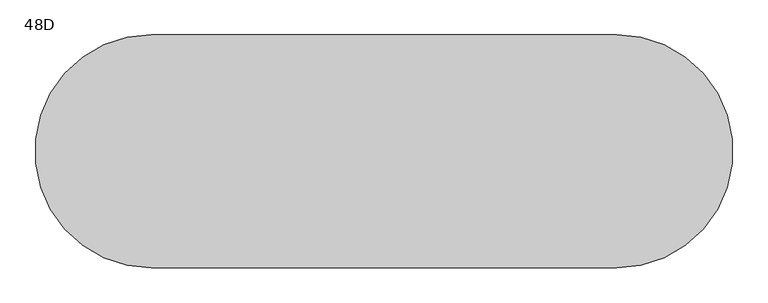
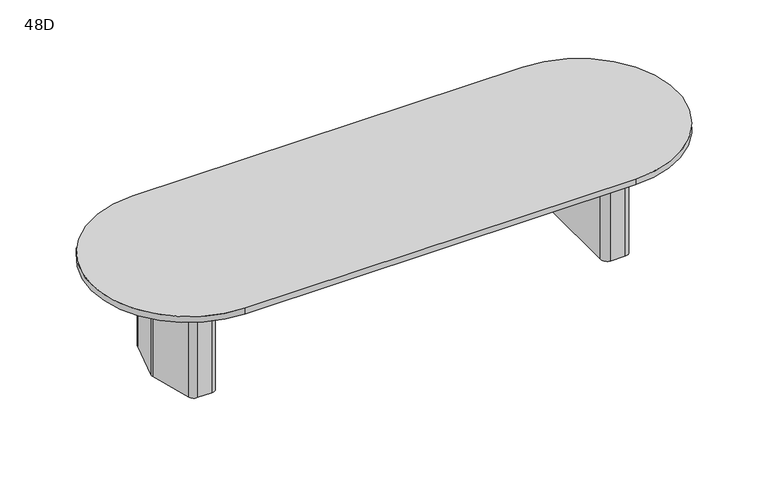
"""IFC4 building model written with IfcOpenShell, lengths in millimetres: furniture geometry, Coalesse_AM_Table_Conference_ETable2_Racetrack_12ft_TwoBase : 48D."""

import ifcopenshell
import ifcopenshell.guid

model = None  # the IFC model being written
_history = None  # IfcOwnerHistory: only IFC2X3 demands one
_inside = {}  # id of a spatial element -> (the spatial element, [elements in it])
_under = {}  # id of a project, library or spatial element -> (it, [spatial elements below it])
_declared = {}  # id of a project -> (the project, [libraries it declares])
_typed = {}  # id of a type object -> (the type object, [elements of that type])
_made_of = {}  # id of a material, layer set ... -> (it, [elements and type objects made of it])


def new_model(schema):
    """Start an empty IFC model of exactly this schema.

    Asked for "IFC4X3", IfcOpenShell would pick the latest addendum, in which some entities
    have other attributes; the version numbers below select the first issue.
    IFC2X3 requires an IfcOwnerHistory on every rooted entity: one is made here for all.
    """
    global model, _history
    if schema == "IFC4X3":
        model = ifcopenshell.file(schema_version=(4, 3, 0, 0))
    else:
        model = ifcopenshell.file(schema=schema)
    _inside.clear()
    _under.clear()
    _declared.clear()
    _typed.clear()
    _made_of.clear()
    _history = None
    if model.schema == "IFC2X3":
        org = make("IfcOrganization", Name="unknown")
        user = make(
            "IfcPersonAndOrganization",
            ThePerson=make("IfcPerson", FamilyName="unknown"),
            TheOrganization=org,
        )
        app = make(
            "IfcApplication",
            ApplicationDeveloper=org,
            Version="unknown",
            ApplicationFullName="unknown",
            ApplicationIdentifier="unknown",
        )
        _history = make(
            "IfcOwnerHistory",
            OwningUser=user,
            OwningApplication=app,
            ChangeAction="ADDED",
            CreationDate=0,
        )
    return model


def make(cls, **values):
    """One entity of the class cls with the attributes given. An attribute that is None is left unset."""
    return model.create_entity(
        cls, **{name: value for name, value in values.items() if value is not None}
    )


def rooted(cls, **values):
    """An entity with a GlobalId (a new one), such as an element, a storey or a relation."""
    return make(cls, GlobalId=ifcopenshell.guid.new(), OwnerHistory=_history, **values)


def si_unit(unit_type, name, prefix=None):
    """IfcSIUnit, for example si_unit("LENGTHUNIT", "METRE", prefix="MILLI")."""
    return make("IfcSIUnit", UnitType=unit_type, Prefix=prefix, Name=name)


def assignment(units):
    """IfcUnitAssignment: the units of a project."""
    return None if units is None else make("IfcUnitAssignment", Units=units)


def point(xyz):
    """IfcCartesianPoint."""
    return None if xyz is None else make("IfcCartesianPoint", Coordinates=xyz)


def direction(xyz):
    """IfcDirection."""
    return None if xyz is None else make("IfcDirection", DirectionRatios=xyz)


def frame(location, z_axis=None, x_axis=None):
    """IfcAxis2Placement3D, a coordinate frame: its origin and axes. An axis left out is left unset."""
    return make(
        "IfcAxis2Placement3D",
        Location=point(location),
        Axis=direction(z_axis),
        RefDirection=direction(x_axis),
    )


def frame_2d(location, x_axis=None):
    """IfcAxis2Placement2D, a coordinate frame in the plane: its origin and x axis."""
    return make(
        "IfcAxis2Placement2D", Location=point(location), RefDirection=direction(x_axis)
    )


def origin():
    """The frame at (0, 0, 0) with its axes left unset."""
    return frame((0.0, 0.0, 0.0))


def place(relative_to, where):
    """IfcLocalPlacement: puts the frame where relative to a parent placement (None: the world)."""
    return make(
        "IfcLocalPlacement", PlacementRelTo=relative_to, RelativePlacement=where
    )


def context(
    kind, dimensions, precision=None, world=None, true_north=None, identifier=None
):
    """IfcGeometricRepresentationContext, for example the 3D "Model" context."""
    return make(
        "IfcGeometricRepresentationContext",
        ContextIdentifier=identifier,
        ContextType=kind,
        CoordinateSpaceDimension=dimensions,
        Precision=precision,
        WorldCoordinateSystem=world,
        TrueNorth=true_north,
    )


def project(units=None, contexts=None):
    """IfcProject with its units and contexts."""
    return rooted(
        "IfcProject",
        Name="project",
        RepresentationContexts=contexts,
        UnitsInContext=assignment(units),
    )


def spatial(cls, under=None, at=None, **own):
    """A site, building, storey or space (cls), placed at a placement, below another one or the project."""
    s = rooted(cls, ObjectPlacement=at, **own)
    if under is not None:
        _under.setdefault(under.id(), (under, []))[1].append(s)
    return s


def polyline(points):
    """IfcPolyline through the points."""
    return make("IfcPolyline", Points=[point(p) for p in points])


def circle_curve(where, radius):
    """IfcCircle in the frame where."""
    return make("IfcCircle", Position=where, Radius=radius)


def trimmed(basis, trim1, trim2, sense, master):
    """IfcTrimmedCurve: the piece of a basis curve between two trims."""
    return make(
        "IfcTrimmedCurve",
        BasisCurve=basis,
        Trim1=trim1,
        Trim2=trim2,
        SenseAgreement=sense,
        MasterRepresentation=master,
    )


def segment(curve, same_sense, transition):
    """IfcCompositeCurveSegment."""
    return make(
        "IfcCompositeCurveSegment",
        Transition=transition,
        SameSense=same_sense,
        ParentCurve=curve,
    )


def composite_curve(segments, self_intersect=None):
    """IfcCompositeCurve: segments joined end to end."""
    return make("IfcCompositeCurve", Segments=segments, SelfIntersect=self_intersect)


def outline(outer, holes=None, kind="AREA"):
    """IfcArbitraryClosedProfileDef: a profile drawn as a closed curve; with holes, ...WithVoids."""
    if holes is None:
        return make("IfcArbitraryClosedProfileDef", ProfileType=kind, OuterCurve=outer)
    return make(
        "IfcArbitraryProfileDefWithVoids",
        ProfileType=kind,
        OuterCurve=outer,
        InnerCurves=holes,
    )


def extrude(swept, where, along, depth):
    """IfcExtrudedAreaSolid: the profile swept, set in the frame where, extruded along a direction by depth."""
    return make(
        "IfcExtrudedAreaSolid",
        SweptArea=swept,
        Position=where,
        ExtrudedDirection=direction(along),
        Depth=depth,
    )


def shape(context_of_items, identifier, shape_type, items):
    """IfcShapeRepresentation: the items that make up one representation, for example the "Body"."""
    return make(
        "IfcShapeRepresentation",
        ContextOfItems=context_of_items,
        RepresentationIdentifier=identifier,
        RepresentationType=shape_type,
        Items=items,
    )


def source(mapping_origin, context_of_items, identifier, shape_type, items):
    """IfcRepresentationMap: a shape defined once, which mapped items show again and again."""
    return make(
        "IfcRepresentationMap",
        MappingOrigin=mapping_origin,
        MappedRepresentation=shape(context_of_items, identifier, shape_type, items),
    )


def transform(
    local_origin,
    x_axis=None,
    y_axis=None,
    z_axis=None,
    scale=None,
    scale2=None,
    scale3=None,
    uniform=True,
):
    """IfcCartesianTransformationOperator3D, or its non-uniform kind. x_axis, y_axis, z_axis: its Axis1, 2, 3."""
    if uniform:
        return make(
            "IfcCartesianTransformationOperator3D",
            Axis1=direction(x_axis),
            Axis2=direction(y_axis),
            LocalOrigin=point(local_origin),
            Scale=scale,
            Axis3=direction(z_axis),
        )
    return make(
        "IfcCartesianTransformationOperator3DnonUniform",
        Axis1=direction(x_axis),
        Axis2=direction(y_axis),
        LocalOrigin=point(local_origin),
        Scale=scale,
        Axis3=direction(z_axis),
        Scale2=scale2,
        Scale3=scale3,
    )


def mapped(mapping_source, mapping_target):
    """IfcMappedItem: shows the shape of a source again, moved by a transform."""
    return make(
        "IfcMappedItem", MappingSource=mapping_source, MappingTarget=mapping_target
    )


def made_of(thing, what):
    """Note that an element or type object is made of a material, layer set ...; save() writes the relation."""
    if what is not None:
        _made_of.setdefault(what.id(), (what, []))[1].append(thing)
    return thing


def element(
    cls,
    number,
    at=None,
    inside=None,
    cuts=None,
    type_object=None,
    material=None,
    context=None,
    identifier="Body",
    shape_type=None,
    held_by="IfcProductDefinitionShape",
    body=None,
    shapes=None,
    **own,
):
    """One element of the class cls, such as IfcWall. Its Tag is "e" and its number.

    at: its placement. inside: the storey or other place that contains it. cuts: it is an
    opening in that element (IfcRelVoidsElement). A single representation is given by context,
    identifier, shape_type and body (its items); several are given by shapes. held_by: the class
    of the entity that holds the representations. save() writes the other relations.
    """
    e = rooted(cls, Tag="e%d" % number, ObjectPlacement=at, **own)
    if body is not None:
        shapes = [shape(context, identifier, shape_type, body)]
    if shapes is not None:
        e.Representation = make(held_by, Representations=shapes)
    if inside is not None:
        _inside.setdefault(inside.id(), (inside, []))[1].append(e)
    if cuts is not None:
        rooted(
            "IfcRelVoidsElement", RelatingBuildingElement=cuts, RelatedOpeningElement=e
        )
    if type_object is not None:
        _typed.setdefault(type_object.id(), (type_object, []))[1].append(e)
    return made_of(e, material)


def aggregate(whole, parts):
    """IfcRelAggregates: a whole, such as a stair, and the parts it consists of."""
    return rooted("IfcRelAggregates", RelatingObject=whole, RelatedObjects=parts)


def save(model, path):
    """Write the relations noted so far, then the file.

    IfcRelAggregates (storeys below a building ...), IfcRelContainedInSpatialStructure (elements
    in a storey), IfcRelDefinesByType, IfcRelAssociatesMaterial and IfcRelDeclares: one each for
    every whole, place, type object, material and project.
    """
    for whole, parts in _under.values():
        aggregate(whole, parts)
    for where, things in _inside.values():
        rooted(
            "IfcRelContainedInSpatialStructure",
            RelatedElements=things,
            RelatingStructure=where,
        )
    for kind, things in _typed.values():
        rooted("IfcRelDefinesByType", RelatedObjects=things, RelatingType=kind)
    for what, things in _made_of.values():
        rooted("IfcRelAssociatesMaterial", RelatedObjects=things, RelatingMaterial=what)
    for by, libraries in _declared.values():
        rooted("IfcRelDeclares", RelatingContext=by, RelatedDefinitions=libraries)
    model.write(path)


def plane_surface(at):
    """IfcPlane: the flat surface through the origin of the frame at, square to its z axis."""
    return make("IfcPlane", Position=at)


def cylinder_surface(at, radius):
    """IfcCylindricalSurface: all points at the distance radius from the z axis of the frame at."""
    return make("IfcCylindricalSurface", Position=at, Radius=radius)


def revolved_surface(curve, axis_point, axis_direction):
    """IfcSurfaceOfRevolution: the curve turned about the line through axis_point along axis_direction."""
    return make(
        "IfcSurfaceOfRevolution",
        SweptCurve=make("IfcArbitraryOpenProfileDef", ProfileType="CURVE", Curve=curve),
        AxisPosition=make("IfcAxis1Placement", Location=point(axis_point), Axis=direction(axis_direction)),
    )


def advanced_brep(points, edges, surfaces, faces):
    """IfcAdvancedBrep: a solid bounded by faces that lie on surfaces and meet in shared edges.

    An edge is (start, end): straight between two places in points (the first is 0);
    or (start, end, curve); or (start, end, curve, False) where it runs against its curve.
    A face is (place in surfaces, loops), or (place, loops, False) where it looks against
    its surface's normal. A loop lists edges by number (the first is 1), with a minus sign
    where the edge is run from its end to its start. The first loop is the outer one.
    """
    corners = [point(p) for p in points]
    vertices = [make("IfcVertexPoint", VertexGeometry=c) for c in corners]
    made = []
    for start, end, *more in edges:
        made.append(
            make(
                "IfcEdgeCurve",
                EdgeStart=vertices[start],
                EdgeEnd=vertices[end],
                EdgeGeometry=more[0] if more else make("IfcPolyline", Points=[corners[start], corners[end]]),
                SameSense=more[1] if len(more) > 1 else True,
            )
        )
    hull = []
    for where, loops, *sense in faces:
        bounds = []
        for j, loop in enumerate(loops):
            ring = [make("IfcOrientedEdge", EdgeElement=made[abs(k) - 1], Orientation=k > 0) for k in loop]
            bounds.append(
                make(
                    "IfcFaceOuterBound" if j == 0 else "IfcFaceBound",
                    Bound=make("IfcEdgeLoop", EdgeList=ring),
                    Orientation=True,
                )
            )
        hull.append(make("IfcAdvancedFace", Bounds=bounds, FaceSurface=surfaces[where], SameSense=sense[0] if sense else True))
    return make("IfcAdvancedBrep", Outer=make("IfcClosedShell", CfsFaces=hull))


def furniture_48d_4f236a16(model_context):
    return source(origin(), model_context, "Body", "SolidModel", [
        advanced_brep(
        [(1370.224548, 274.2093613, 698.5), (1330.3579246, 304.8, 698.5), (1241.425, 304.8, 698.5), (1200.15, 263.525, 698.5), (1200.15, -263.525, 698.5), (1241.425, -304.8, 698.5), (1330.3579246, -304.8, 698.5), (1370.224548, -274.2093613, 698.5), (1440.8503901, -10.6333708, 698.5), (1440.8503901, 10.6333708, 698.5), (1238.25, -206.375, 698.5), (1238.25, 206.375, 698.5), (1263.65, 231.775, 698.5), (1322.6608422, 231.775, 698.5), (1347.195338, 212.9490792, 698.5), (1385.8875, 68.54974, 698.5), (1385.8875, -68.54974, 698.5), (1347.195338, -212.9490792, 698.5), (1322.6608422, -231.775, 698.5), (1263.65, -231.775, 698.5), (1370.224548, 274.2093613, 3.175), (1440.8503901, 10.6333708, 3.175), (1440.8503901, -10.6333708, 3.175), (1370.224548, -274.2093613, 3.175), (1330.3579246, -304.8, 3.175), (1241.425, -304.8, 3.175), (1200.15, -263.525, 3.175), (1200.15, 263.525, 3.175), (1241.425, 304.8, 3.175), (1330.3579246, 304.8, 3.175), (1359.4625859, 216.2361187, 3.175), (1322.6608422, 244.475, 3.175), (1263.65, 244.475, 3.175), (1225.55, 206.375, 3.175), (1225.55, -206.375, 3.175), (1263.65, -244.475, 3.175), (1322.6608422, -244.475, 3.175), (1359.4625859, -216.2361187, 3.175), (1398.5875, -70.2217466, 3.175), (1398.5875, 70.2217466, 3.175), (1263.65, -231.775, 3.175), (1238.25, -206.375, 3.175), (1322.6608422, -231.775, 3.175), (1347.195338, -212.9490792, 3.175), (1385.8875, -68.54974, 3.175), (1385.8875, 68.54974, 3.175), (1347.195338, 212.9490792, 3.175), (1322.6608422, 231.775, 3.175), (1263.65, 231.775, 3.175), (1238.25, 206.375, 3.175), (1359.4625859, 216.2361187, 0.0), (1398.5875, 70.2217466, 0.0), (1398.5875, -70.2217466, 0.0), (1359.4625859, -216.2361187, 0.0), (1322.6608422, -244.475, 0.0), (1263.65, -244.475, 0.0), (1225.55, -206.375, 0.0), (1225.55, 206.375, 0.0), (1263.65, 244.475, 0.0), (1322.6608422, 244.475, 0.0)],
        [
            (0, 1, circle_curve(frame((1330.3579246, 263.5270004, 698.5), z_axis=(0.0, 0.0, 1.0), x_axis=(-1.0, 0.0, 0.0)), 41.2729996)),
            (1, 2),
            (2, 3, circle_curve(frame((1241.425, 263.525, 698.5), z_axis=(0.0, 0.0, 1.0), x_axis=(-1.0, 0.0, 0.0)), 41.275)),
            (3, 4),
            (4, 5, circle_curve(frame((1241.425, -263.525, 698.5), z_axis=(0.0, 0.0, 1.0), x_axis=(-1.0, 0.0, 0.0)), 41.275)),
            (5, 6),
            (6, 7, circle_curve(frame((1330.3579246, -263.5270004, 698.5), z_axis=(0.0, 0.0, 1.0), x_axis=(-1.0, 0.0, 0.0)), 41.2729996)),
            (7, 8),
            (8, 9, circle_curve(frame((1401.1665979, 0.0, 698.5), z_axis=(0.0, 0.0, 1.0), x_axis=(-1.0, 0.0, 0.0)), 41.0837187)),
            (9, 0),
            (10, 11),
            (11, 12, circle_curve(frame((1263.65, 206.375, 698.5), z_axis=(0.0, 0.0, -1.0), x_axis=(-1.0, 0.0, 0.0)), 25.4)),
            (12, 13),
            (13, 14, circle_curve(frame((1322.6608422, 206.375, 698.5), z_axis=(0.0, 0.0, -1.0), x_axis=(-1.0, 0.0, 0.0)), 25.4)),
            (14, 15),
            (15, 16),
            (16, 17),
            (17, 18, circle_curve(frame((1322.6608422, -206.375, 698.5), z_axis=(0.0, 0.0, -1.0), x_axis=(-1.0, 0.0, 0.0)), 25.4)),
            (18, 19),
            (19, 10, circle_curve(frame((1263.65, -206.375, 698.5), z_axis=(0.0, 0.0, -1.0), x_axis=(-1.0, 0.0, 0.0)), 25.4)),
            (20, 21),
            (21, 22, circle_curve(frame((1401.1665979, 0.0, 3.175), z_axis=(0.0, 0.0, -1.0), x_axis=(-1.0, 0.0, 0.0)), 41.0837187)),
            (22, 23),
            (23, 24, circle_curve(frame((1330.3579246, -263.5270004, 3.175), z_axis=(0.0, 0.0, -1.0), x_axis=(-1.0, 0.0, 0.0)), 41.2729996)),
            (24, 25),
            (25, 26, circle_curve(frame((1241.425, -263.525, 3.175), z_axis=(0.0, 0.0, -1.0), x_axis=(-1.0, 0.0, 0.0)), 41.275)),
            (26, 27),
            (27, 28, circle_curve(frame((1241.425, 263.525, 3.175), z_axis=(0.0, 0.0, -1.0), x_axis=(-1.0, 0.0, 0.0)), 41.275)),
            (28, 29),
            (29, 20, circle_curve(frame((1330.3579246, 263.5270004, 3.175), z_axis=(0.0, 0.0, -1.0), x_axis=(-1.0, 0.0, 0.0)), 41.2729996)),
            (30, 31, circle_curve(frame((1322.6608422, 206.375, 3.175), z_axis=(0.0, 0.0, 1.0), x_axis=(-1.0, 0.0, 0.0)), 38.1)),
            (31, 32),
            (32, 33, circle_curve(frame((1263.65, 206.375, 3.175), z_axis=(0.0, 0.0, 1.0), x_axis=(-1.0, 0.0, 0.0)), 38.1)),
            (33, 34),
            (34, 35, circle_curve(frame((1263.65, -206.375, 3.175), z_axis=(0.0, 0.0, 1.0), x_axis=(-1.0, 0.0, 0.0)), 38.1)),
            (35, 36),
            (36, 37, circle_curve(frame((1322.6608422, -206.375, 3.175), z_axis=(0.0, 0.0, 1.0), x_axis=(-1.0, 0.0, 0.0)), 38.1)),
            (37, 38),
            (38, 39),
            (39, 30),
            (9, 21),
            (20, 0),
            (8, 22),
            (7, 23),
            (6, 24),
            (5, 25),
            (4, 26),
            (3, 27),
            (2, 28),
            (1, 29),
            (19, 40),
            (40, 41, circle_curve(frame((1263.65, -206.375, 3.175), z_axis=(0.0, 0.0, -1.0), x_axis=(-1.0, 0.0, 0.0)), 25.4)),
            (41, 10),
            (18, 42),
            (42, 40),
            (17, 43),
            (43, 42, circle_curve(frame((1322.6608422, -206.375, 3.175), z_axis=(0.0, 0.0, -1.0), x_axis=(-1.0, 0.0, 0.0)), 25.4)),
            (16, 44),
            (44, 43),
            (15, 45),
            (45, 44),
            (14, 46),
            (46, 45),
            (13, 47),
            (47, 46, circle_curve(frame((1322.6608422, 206.375, 3.175), z_axis=(0.0, 0.0, -1.0), x_axis=(-1.0, 0.0, 0.0)), 25.4)),
            (12, 48),
            (48, 47),
            (11, 49),
            (49, 48, circle_curve(frame((1263.65, 206.375, 3.175), z_axis=(0.0, 0.0, -1.0), x_axis=(-1.0, 0.0, 0.0)), 25.4)),
            (41, 49),
            (50, 51),
            (51, 52),
            (52, 53),
            (53, 54, circle_curve(frame((1322.6608422, -206.375, 0.0), z_axis=(0.0, 0.0, -1.0), x_axis=(-1.0, 0.0, 0.0)), 38.1)),
            (54, 55),
            (55, 56, circle_curve(frame((1263.65, -206.375, 0.0), z_axis=(0.0, 0.0, -1.0), x_axis=(-1.0, 0.0, 0.0)), 38.1)),
            (56, 57),
            (57, 58, circle_curve(frame((1263.65, 206.375, 0.0), z_axis=(0.0, 0.0, -1.0), x_axis=(-1.0, 0.0, 0.0)), 38.1)),
            (58, 59),
            (59, 50, circle_curve(frame((1322.6608422, 206.375, 0.0), z_axis=(0.0, 0.0, -1.0), x_axis=(-1.0, 0.0, 0.0)), 38.1)),
            (50, 30),
            (39, 51),
            (38, 52),
            (37, 53),
            (36, 54),
            (35, 55),
            (34, 56),
            (33, 57),
            (32, 58),
            (31, 59),
        ],
        [
            plane_surface(frame((1440.8374275, 10.6817473, 698.5), z_axis=(0.0, 0.0, 1.0000000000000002), x_axis=(0.25882201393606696, -0.9659250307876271, 0.0))),
            plane_surface(frame((1440.8374275, 10.6817473, 3.175), z_axis=(0.0, 0.0, -1.0000000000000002), x_axis=(-0.25882201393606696, 0.9659250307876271, 0.0))),
            plane_surface(frame((1370.224548, 274.2093613, 698.5), z_axis=(0.9659250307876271, 0.25882201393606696, 0.0), x_axis=(0.0, 0.0, -1.0))),
            cylinder_surface(frame((1401.1665979, 0.0, 3.175), z_axis=(0.0, 0.0, 1.0), x_axis=(-1.0, 0.0, 0.0)), 41.0837187),
            plane_surface(frame((1440.8503901, -10.6333708, 698.5), z_axis=(0.9659250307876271, -0.2588220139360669, 0.0), x_axis=(0.0, 0.0, -1.0))),
            cylinder_surface(frame((1330.3579246, -263.5270004, 3.175), z_axis=(0.0, 0.0, 1.0), x_axis=(-1.0, 0.0, 0.0)), 41.2729996),
            plane_surface(frame((1330.3579246, -304.8, 698.5), z_axis=(0.0, -1.0, 0.0), x_axis=(0.0, 0.0, -1.0))),
            cylinder_surface(frame((1241.425, -263.525, 3.175), z_axis=(0.0, 0.0, 1.0), x_axis=(-1.0, 0.0, 0.0)), 41.275),
            plane_surface(frame((1200.15, -263.525, 698.5), z_axis=(-1.0, 0.0, 0.0), x_axis=(0.0, 0.0, -1.0))),
            cylinder_surface(frame((1241.425, 263.525, 3.175), z_axis=(0.0, 0.0, 1.0), x_axis=(-1.0, 0.0, 0.0)), 41.275),
            plane_surface(frame((1241.425, 304.8, 698.5), z_axis=(0.0, 1.0, 0.0), x_axis=(0.0, 0.0, -1.0))),
            cylinder_surface(frame((1330.3579246, 263.5270004, 3.175), z_axis=(0.0, 0.0, 1.0), x_axis=(-1.0, 0.0, 0.0)), 41.2729996),
            revolved_surface(polyline([(1238.25, -206.375, 3.175), (1238.25, -206.375, 698.5)]), (1263.65, -206.375, 0.0), (0.0, 0.0, -1.0)),
            plane_surface(frame((1263.65, -231.775, 698.5), z_axis=(0.0, 1.0, 0.0), x_axis=(0.0, 0.0, -1.0))),
            revolved_surface(polyline([(1297.2608421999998, -206.375, 3.175), (1297.2608421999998, -206.375, 698.5)]), (1322.6608422, -206.375, 0.0), (0.0, 0.0, -1.0)),
            plane_surface(frame((1347.195338, -212.9490792, 698.5), z_axis=(-0.9659250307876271, 0.2588220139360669, 0.0), x_axis=(0.0, 0.0, -1.0))),
            plane_surface(frame((1385.8875, -68.54974, 698.5), z_axis=(-1.0, 0.0, 0.0), x_axis=(0.0, 0.0, -1.0))),
            plane_surface(frame((1385.8875, 68.54974, 698.5), z_axis=(-0.9659250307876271, -0.25882201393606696, 0.0), x_axis=(0.0, 0.0, -1.0))),
            revolved_surface(polyline([(1297.2608421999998, 206.375, 3.175), (1297.2608421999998, 206.375, 698.5)]), (1322.6608422, 206.375, 0.0), (0.0, 0.0, -1.0)),
            plane_surface(frame((1322.6608422, 231.775, 698.5), z_axis=(0.0, -1.0, 0.0), x_axis=(0.0, 0.0, -1.0))),
            revolved_surface(polyline([(1238.25, 206.375, 3.175), (1238.25, 206.375, 698.5)]), (1263.65, 206.375, 0.0), (0.0, 0.0, -1.0)),
            plane_surface(frame((1238.25, 206.375, 698.5), z_axis=(1.0, 0.0, 0.0), x_axis=(0.0, 0.0, -1.0))),
            plane_surface(frame((1398.1547479, 71.8367796, 3.175), z_axis=(0.0, 0.0, 1.0), x_axis=(0.25882201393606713, -0.965925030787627, 0.0))),
            plane_surface(frame((1398.1547479, 71.8367796, 0.0), z_axis=(0.0, 0.0, -1.0), x_axis=(-0.25882201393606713, 0.965925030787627, 0.0))),
            plane_surface(frame((1359.4625859, 216.2361187, 3.175), z_axis=(0.965925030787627, 0.25882201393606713, 0.0), x_axis=(0.0, 0.0, -1.0))),
            plane_surface(frame((1398.5875, 70.2217466, 3.175), z_axis=(1.0, 0.0, 0.0), x_axis=(0.0, 0.0, -1.0))),
            plane_surface(frame((1398.5875, -70.2217466, 3.175), z_axis=(0.9659250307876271, -0.2588220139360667, 0.0), x_axis=(0.0, 0.0, -1.0))),
            cylinder_surface(frame((1322.6608422, -206.375, 0.0), z_axis=(0.0, 0.0, 1.0), x_axis=(-1.0, 0.0, 0.0)), 38.1),
            plane_surface(frame((1322.6608422, -244.475, 3.175), z_axis=(0.0, -1.0, 0.0), x_axis=(0.0, 0.0, -1.0))),
            cylinder_surface(frame((1263.65, -206.375, 0.0), z_axis=(0.0, 0.0, 1.0), x_axis=(-1.0, 0.0, 0.0)), 38.1),
            plane_surface(frame((1225.55, -206.375, 3.175), z_axis=(-1.0, 0.0, 0.0), x_axis=(0.0, 0.0, -1.0))),
            cylinder_surface(frame((1263.65, 206.375, 0.0), z_axis=(0.0, 0.0, 1.0), x_axis=(-1.0, 0.0, 0.0)), 38.1),
            plane_surface(frame((1263.65, 244.475, 3.175), z_axis=(0.0, 1.0, 0.0), x_axis=(0.0, 0.0, -1.0))),
            cylinder_surface(frame((1322.6608422, 206.375, 0.0), z_axis=(0.0, 0.0, 1.0), x_axis=(-1.0, 0.0, 0.0)), 38.1),
        ],
        [
            (0, [[1, 2, 3, 4, 5, 6, 7, 8, 9, 10], [11, 12, 13, 14, 15, 16, 17, 18, 19, 20]]),
            (1, [[21, 22, 23, 24, 25, 26, 27, 28, 29, 30], [31, 32, 33, 34, 35, 36, 37, 38, 39, 40]]),
            (2, [[41, -21, 42, -10]]),
            (3, [[43, -22, -41, -9]]),
            (4, [[44, -23, -43, -8]]),
            (5, [[45, -24, -44, -7]]),
            (6, [[46, -25, -45, -6]]),
            (7, [[47, -26, -46, -5]]),
            (8, [[48, -27, -47, -4]]),
            (9, [[49, -28, -48, -3]]),
            (10, [[50, -29, -49, -2]]),
            (11, [[-42, -30, -50, -1]]),
            (12, [[51, 52, 53, -20]]),
            (13, [[54, 55, -51, -19]]),
            (14, [[56, 57, -54, -18]]),
            (15, [[58, 59, -56, -17]]),
            (16, [[60, 61, -58, -16]]),
            (17, [[62, 63, -60, -15]]),
            (18, [[64, 65, -62, -14]]),
            (19, [[66, 67, -64, -13]]),
            (20, [[68, 69, -66, -12]]),
            (21, [[-53, 70, -68, -11]]),
            (22, [[-55, -57, -59, -61, -63, -65, -67, -69, -70, -52]]),
            (23, [[71, 72, 73, 74, 75, 76, 77, 78, 79, 80]]),
            (24, [[81, -40, 82, -71]]),
            (25, [[-82, -39, 83, -72]]),
            (26, [[-83, -38, 84, -73]]),
            (27, [[-84, -37, 85, -74]]),
            (28, [[-85, -36, 86, -75]]),
            (29, [[-86, -35, 87, -76]]),
            (30, [[-87, -34, 88, -77]]),
            (31, [[-88, -33, 89, -78]]),
            (32, [[-89, -32, 90, -79]]),
            (33, [[-90, -31, -81, -80]]),
        ],
    ),
        advanced_brep(
        [(-1381.337048, 274.2093613, 698.5), (-1451.9628901, 10.6333708, 698.5), (-1451.9628901, -10.6333708, 698.5), (-1381.337048, -274.2093613, 698.5), (-1341.4704246, -304.8, 698.5), (-1252.5375, -304.8, 698.5), (-1211.2625, -263.525, 698.5), (-1211.2625, 263.525, 698.5), (-1252.5375, 304.8, 698.5), (-1341.4704246, 304.8, 698.5), (-1249.3625, -206.375, 698.5), (-1274.7625, -231.775, 698.5), (-1333.7733422, -231.775, 698.5), (-1358.307838, -212.9490792, 698.5), (-1397.0, -68.54974, 698.5), (-1397.0, 68.54974, 698.5), (-1358.307838, 212.9490792, 698.5), (-1333.7733422, 231.775, 698.5), (-1274.7625, 231.775, 698.5), (-1249.3625, 206.375, 698.5), (-1381.337048, 274.2093613, 3.175), (-1341.4704246, 304.8, 3.175), (-1252.5375, 304.8, 3.175), (-1211.2625, 263.525, 3.175), (-1211.2625, -263.525, 3.175), (-1252.5375, -304.8, 3.175), (-1341.4704246, -304.8, 3.175), (-1381.337048, -274.2093613, 3.175), (-1451.9628901, -10.6333708, 3.175), (-1451.9628901, 10.6333708, 3.175), (-1370.5750859, 216.2361187, 3.175), (-1409.7, 70.2217466, 3.175), (-1409.7, -70.2217466, 3.175), (-1370.5750859, -216.2361187, 3.175), (-1333.7733422, -244.475, 3.175), (-1274.7625, -244.475, 3.175), (-1236.6625, -206.375, 3.175), (-1236.6625, 206.375, 3.175), (-1274.7625, 244.475, 3.175), (-1333.7733422, 244.475, 3.175), (-1249.3625, -206.375, 3.175), (-1274.7625, -231.775, 3.175), (-1333.7733422, -231.775, 3.175), (-1358.307838, -212.9490792, 3.175), (-1397.0, -68.54974, 3.175), (-1397.0, 68.54974, 3.175), (-1358.307838, 212.9490792, 3.175), (-1333.7733422, 231.775, 3.175), (-1274.7625, 231.775, 3.175), (-1249.3625, 206.375, 3.175), (-1370.5750859, 216.2361187, 0.0), (-1333.7733422, 244.475, 0.0), (-1274.7625, 244.475, 0.0), (-1236.6625, 206.375, 0.0), (-1236.6625, -206.375, 0.0), (-1274.7625, -244.475, 0.0), (-1333.7733422, -244.475, 0.0), (-1370.5750859, -216.2361187, 0.0), (-1409.7, -70.2217466, 0.0), (-1409.7, 70.2217466, 0.0)],
        [
            (0, 1),
            (1, 2, circle_curve(frame((-1412.2790979, 0.0, 698.5), z_axis=(0.0, 0.0, 1.0), x_axis=(1.0, 0.0, 0.0)), 41.0837187)),
            (2, 3),
            (3, 4, circle_curve(frame((-1341.4704246, -263.5270004, 698.5), z_axis=(0.0, 0.0, 1.0), x_axis=(1.0, 0.0, 0.0)), 41.2729996)),
            (4, 5),
            (5, 6, circle_curve(frame((-1252.5375, -263.525, 698.5), z_axis=(0.0, 0.0, 1.0), x_axis=(1.0, 0.0, 0.0)), 41.275)),
            (6, 7),
            (7, 8, circle_curve(frame((-1252.5375, 263.525, 698.5), z_axis=(0.0, 0.0, 1.0), x_axis=(1.0, 0.0, 0.0)), 41.275)),
            (8, 9),
            (9, 0, circle_curve(frame((-1341.4704246, 263.5270004, 698.5), z_axis=(0.0, 0.0, 1.0), x_axis=(1.0, 0.0, 0.0)), 41.2729996)),
            (10, 11, circle_curve(frame((-1274.7625, -206.375, 698.5), z_axis=(0.0, 0.0, -1.0), x_axis=(1.0, 0.0, 0.0)), 25.4)),
            (11, 12),
            (12, 13, circle_curve(frame((-1333.7733422, -206.375, 698.5), z_axis=(0.0, 0.0, -1.0), x_axis=(1.0, 0.0, 0.0)), 25.4)),
            (13, 14),
            (14, 15),
            (15, 16),
            (16, 17, circle_curve(frame((-1333.7733422, 206.375, 698.5), z_axis=(0.0, 0.0, -1.0), x_axis=(1.0, 0.0, 0.0)), 25.4)),
            (17, 18),
            (18, 19, circle_curve(frame((-1274.7625, 206.375, 698.5), z_axis=(0.0, 0.0, -1.0), x_axis=(1.0, 0.0, 0.0)), 25.4)),
            (19, 10),
            (20, 21, circle_curve(frame((-1341.4704246, 263.5270004, 3.175), z_axis=(0.0, 0.0, -1.0), x_axis=(1.0, 0.0, 0.0)), 41.2729996)),
            (21, 22),
            (22, 23, circle_curve(frame((-1252.5375, 263.525, 3.175), z_axis=(0.0, 0.0, -1.0), x_axis=(1.0, 0.0, 0.0)), 41.275)),
            (23, 24),
            (24, 25, circle_curve(frame((-1252.5375, -263.525, 3.175), z_axis=(0.0, 0.0, -1.0), x_axis=(1.0, 0.0, 0.0)), 41.275)),
            (25, 26),
            (26, 27, circle_curve(frame((-1341.4704246, -263.5270004, 3.175), z_axis=(0.0, 0.0, -1.0), x_axis=(1.0, 0.0, 0.0)), 41.2729996)),
            (27, 28),
            (28, 29, circle_curve(frame((-1412.2790979, 0.0, 3.175), z_axis=(0.0, 0.0, -1.0), x_axis=(1.0, 0.0, 0.0)), 41.0837187)),
            (29, 20),
            (30, 31),
            (31, 32),
            (32, 33),
            (33, 34, circle_curve(frame((-1333.7733422, -206.375, 3.175), z_axis=(0.0, 0.0, 1.0), x_axis=(1.0, 0.0, 0.0)), 38.1)),
            (34, 35),
            (35, 36, circle_curve(frame((-1274.7625, -206.375, 3.175), z_axis=(0.0, 0.0, 1.0), x_axis=(1.0, 0.0, 0.0)), 38.1)),
            (36, 37),
            (37, 38, circle_curve(frame((-1274.7625, 206.375, 3.175), z_axis=(0.0, 0.0, 1.0), x_axis=(1.0, 0.0, 0.0)), 38.1)),
            (38, 39),
            (39, 30, circle_curve(frame((-1333.7733422, 206.375, 3.175), z_axis=(0.0, 0.0, 1.0), x_axis=(1.0, 0.0, 0.0)), 38.1)),
            (0, 20),
            (29, 1),
            (28, 2),
            (27, 3),
            (26, 4),
            (25, 5),
            (24, 6),
            (23, 7),
            (22, 8),
            (21, 9),
            (10, 40),
            (40, 41, circle_curve(frame((-1274.7625, -206.375, 3.175), z_axis=(0.0, 0.0, -1.0), x_axis=(1.0, 0.0, 0.0)), 25.4)),
            (41, 11),
            (41, 42),
            (42, 12),
            (42, 43, circle_curve(frame((-1333.7733422, -206.375, 3.175), z_axis=(0.0, 0.0, -1.0), x_axis=(1.0, 0.0, 0.0)), 25.4)),
            (43, 13),
            (43, 44),
            (44, 14),
            (44, 45),
            (45, 15),
            (45, 46),
            (46, 16),
            (46, 47, circle_curve(frame((-1333.7733422, 206.375, 3.175), z_axis=(0.0, 0.0, -1.0), x_axis=(1.0, 0.0, 0.0)), 25.4)),
            (47, 17),
            (47, 48),
            (48, 18),
            (48, 49, circle_curve(frame((-1274.7625, 206.375, 3.175), z_axis=(0.0, 0.0, -1.0), x_axis=(1.0, 0.0, 0.0)), 25.4)),
            (49, 19),
            (49, 40),
            (50, 51, circle_curve(frame((-1333.7733422, 206.375, 0.0), z_axis=(0.0, 0.0, -1.0), x_axis=(1.0, 0.0, 0.0)), 38.1)),
            (51, 52),
            (52, 53, circle_curve(frame((-1274.7625, 206.375, 0.0), z_axis=(0.0, 0.0, -1.0), x_axis=(1.0, 0.0, 0.0)), 38.1)),
            (53, 54),
            (54, 55, circle_curve(frame((-1274.7625, -206.375, 0.0), z_axis=(0.0, 0.0, -1.0), x_axis=(1.0, 0.0, 0.0)), 38.1)),
            (55, 56),
            (56, 57, circle_curve(frame((-1333.7733422, -206.375, 0.0), z_axis=(0.0, 0.0, -1.0), x_axis=(1.0, 0.0, 0.0)), 38.1)),
            (57, 58),
            (58, 59),
            (59, 50),
            (59, 31),
            (30, 50),
            (58, 32),
            (57, 33),
            (56, 34),
            (55, 35),
            (54, 36),
            (53, 37),
            (52, 38),
            (51, 39),
        ],
        [
            plane_surface(frame((-1451.9499275, 10.6817473, 698.5), z_axis=(0.0, 0.0, 1.0000000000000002), x_axis=(-0.25882201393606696, -0.9659250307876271, 0.0))),
            plane_surface(frame((-1451.9499275, 10.6817473, 3.175), z_axis=(0.0, 0.0, -1.0000000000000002), x_axis=(0.25882201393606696, 0.9659250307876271, 0.0))),
            plane_surface(frame((-1381.337048, 274.2093613, 698.5), z_axis=(-0.9659250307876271, 0.25882201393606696, 0.0), x_axis=(0.0, 0.0, -1.0))),
            cylinder_surface(frame((-1412.2790979, 0.0, 3.175), z_axis=(0.0, 0.0, 1.0), x_axis=(1.0, 0.0, 0.0)), 41.0837187),
            plane_surface(frame((-1451.9628901, -10.6333708, 698.5), z_axis=(-0.9659250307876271, -0.2588220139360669, 0.0), x_axis=(0.0, 0.0, -1.0))),
            cylinder_surface(frame((-1341.4704246, -263.5270004, 3.175), z_axis=(0.0, 0.0, 1.0), x_axis=(1.0, 0.0, 0.0)), 41.2729996),
            plane_surface(frame((-1341.4704246, -304.8, 698.5), z_axis=(0.0, -1.0, 0.0), x_axis=(0.0, 0.0, -1.0))),
            cylinder_surface(frame((-1252.5375, -263.525, 3.175), z_axis=(0.0, 0.0, 1.0), x_axis=(1.0, 0.0, 0.0)), 41.275),
            plane_surface(frame((-1211.2625, -263.525, 698.5), z_axis=(1.0, 0.0, 0.0), x_axis=(0.0, 0.0, -1.0))),
            cylinder_surface(frame((-1252.5375, 263.525, 3.175), z_axis=(0.0, 0.0, 1.0), x_axis=(1.0, 0.0, 0.0)), 41.275),
            plane_surface(frame((-1252.5375, 304.8, 698.5), z_axis=(0.0, 1.0, 0.0), x_axis=(0.0, 0.0, -1.0))),
            cylinder_surface(frame((-1341.4704246, 263.5270004, 3.175), z_axis=(0.0, 0.0, 1.0), x_axis=(1.0, 0.0, 0.0)), 41.2729996),
            revolved_surface(polyline([(-1249.3625, -206.375, 3.175), (-1249.3625, -206.375, 698.5)]), (-1274.7625, -206.375, 0.0), (0.0, 0.0, -1.0)),
            plane_surface(frame((-1274.7625, -231.775, 698.5), z_axis=(0.0, 1.0, 0.0), x_axis=(0.0, 0.0, -1.0))),
            revolved_surface(polyline([(-1308.3733421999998, -206.375, 3.175), (-1308.3733421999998, -206.375, 698.5)]), (-1333.7733422, -206.375, 0.0), (0.0, 0.0, -1.0)),
            plane_surface(frame((-1358.307838, -212.9490792, 698.5), z_axis=(0.9659250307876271, 0.2588220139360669, 0.0), x_axis=(0.0, 0.0, -1.0))),
            plane_surface(frame((-1397.0, -68.54974, 698.5), z_axis=(1.0, 0.0, 0.0), x_axis=(0.0, 0.0, -1.0))),
            plane_surface(frame((-1397.0, 68.54974, 698.5), z_axis=(0.9659250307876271, -0.25882201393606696, 0.0), x_axis=(0.0, 0.0, -1.0))),
            revolved_surface(polyline([(-1308.3733421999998, 206.375, 3.175), (-1308.3733421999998, 206.375, 698.5)]), (-1333.7733422, 206.375, 0.0), (0.0, 0.0, -1.0)),
            plane_surface(frame((-1333.7733422, 231.775, 698.5), z_axis=(0.0, -1.0, 0.0), x_axis=(0.0, 0.0, -1.0))),
            revolved_surface(polyline([(-1249.3625, 206.375, 3.175), (-1249.3625, 206.375, 698.5)]), (-1274.7625, 206.375, 0.0), (0.0, 0.0, -1.0)),
            plane_surface(frame((-1249.3625, 206.375, 698.5), z_axis=(-1.0, 0.0, 0.0), x_axis=(0.0, 0.0, -1.0))),
            plane_surface(frame((-1409.2672479, 71.8367796, 3.175), z_axis=(0.0, 0.0, 1.0), x_axis=(-0.25882201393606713, -0.965925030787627, 0.0))),
            plane_surface(frame((-1409.2672479, 71.8367796, 0.0), z_axis=(0.0, 0.0, -1.0), x_axis=(0.25882201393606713, 0.965925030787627, 0.0))),
            plane_surface(frame((-1370.5750859, 216.2361187, 3.175), z_axis=(-0.965925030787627, 0.25882201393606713, 0.0), x_axis=(0.0, 0.0, -1.0))),
            plane_surface(frame((-1409.7, 70.2217466, 3.175), z_axis=(-1.0, 0.0, 0.0), x_axis=(0.0, 0.0, -1.0))),
            plane_surface(frame((-1409.7, -70.2217466, 3.175), z_axis=(-0.9659250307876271, -0.2588220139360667, 0.0), x_axis=(0.0, 0.0, -1.0))),
            cylinder_surface(frame((-1333.7733422, -206.375, 0.0), z_axis=(0.0, 0.0, 1.0), x_axis=(1.0, 0.0, 0.0)), 38.1),
            plane_surface(frame((-1333.7733422, -244.475, 3.175), z_axis=(0.0, -1.0, 0.0), x_axis=(0.0, 0.0, -1.0))),
            cylinder_surface(frame((-1274.7625, -206.375, 0.0), z_axis=(0.0, 0.0, 1.0), x_axis=(1.0, 0.0, 0.0)), 38.1),
            plane_surface(frame((-1236.6625, -206.375, 3.175), z_axis=(1.0, 0.0, 0.0), x_axis=(0.0, 0.0, -1.0))),
            cylinder_surface(frame((-1274.7625, 206.375, 0.0), z_axis=(0.0, 0.0, 1.0), x_axis=(1.0, 0.0, 0.0)), 38.1),
            plane_surface(frame((-1274.7625, 244.475, 3.175), z_axis=(0.0, 1.0, 0.0), x_axis=(0.0, 0.0, -1.0))),
            cylinder_surface(frame((-1333.7733422, 206.375, 0.0), z_axis=(0.0, 0.0, 1.0), x_axis=(1.0, 0.0, 0.0)), 38.1),
        ],
        [
            (0, [[1, 2, 3, 4, 5, 6, 7, 8, 9, 10], [11, 12, 13, 14, 15, 16, 17, 18, 19, 20]]),
            (1, [[21, 22, 23, 24, 25, 26, 27, 28, 29, 30], [31, 32, 33, 34, 35, 36, 37, 38, 39, 40]]),
            (2, [[-1, 41, -30, 42]]),
            (3, [[-2, -42, -29, 43]]),
            (4, [[-3, -43, -28, 44]]),
            (5, [[-4, -44, -27, 45]]),
            (6, [[-5, -45, -26, 46]]),
            (7, [[-6, -46, -25, 47]]),
            (8, [[-7, -47, -24, 48]]),
            (9, [[-8, -48, -23, 49]]),
            (10, [[-9, -49, -22, 50]]),
            (11, [[-10, -50, -21, -41]]),
            (12, [[-11, 51, 52, 53]]),
            (13, [[-12, -53, 54, 55]]),
            (14, [[-13, -55, 56, 57]]),
            (15, [[-14, -57, 58, 59]]),
            (16, [[-15, -59, 60, 61]]),
            (17, [[-16, -61, 62, 63]]),
            (18, [[-17, -63, 64, 65]]),
            (19, [[-18, -65, 66, 67]]),
            (20, [[-19, -67, 68, 69]]),
            (21, [[-20, -69, 70, -51]]),
            (22, [[-52, -70, -68, -66, -64, -62, -60, -58, -56, -54]]),
            (23, [[71, 72, 73, 74, 75, 76, 77, 78, 79, 80]]),
            (24, [[-80, 81, -31, 82]]),
            (25, [[-79, 83, -32, -81]]),
            (26, [[-78, 84, -33, -83]]),
            (27, [[-77, 85, -34, -84]]),
            (28, [[-76, 86, -35, -85]]),
            (29, [[-75, 87, -36, -86]]),
            (30, [[-74, 88, -37, -87]]),
            (31, [[-73, 89, -38, -88]]),
            (32, [[-72, 90, -39, -89]]),
            (33, [[-71, -82, -40, -90]]),
        ],
    ),
        extrude(outline(polyline([(96.8375, 698.5), (103.1875, 698.5), (103.1875, 476.25), (-103.1875, 476.25), (-103.1875, 698.5), (-96.8375, 698.5), (-96.8375, 482.6), (96.8375, 482.6), (96.8375, 698.5)])), frame((-1211.2625, 0.0, 0.0), z_axis=(1.0, 0.0, 0.0), x_axis=(0.0, 1.0, 0.0)), (0.0, 0.0, 1.0), 2411.4125),
        extrude(outline(composite_curve([segment(trimmed(circle_curve(frame_2d((-1219.2, 0.0)), 609.6), [point((-1219.2, -609.6))], [point((-1219.2, 609.6))], False, "CARTESIAN"), True, "CONTINUOUS"), segment(polyline([(-1219.2, 609.6), (1219.2, 609.6)]), True, "CONTINUOUS"), segment(trimmed(circle_curve(frame_2d((1219.2, 0.0)), 609.6), [point((1219.2, 609.6))], [point((1219.2, -609.6))], False, "CARTESIAN"), True, "CONTINUOUS"), segment(polyline([(1219.2, -609.6), (-1219.2, -609.6)]), True, "CONTINUOUS")], self_intersect=False)), frame((0.0, 0.0, 698.5), z_axis=(0.0, 0.0, 1.0), x_axis=(1.0, 0.0, 0.0)), (0.0, 0.0, 1.0), 38.1),
    ])


if __name__ == "__main__":
    model = new_model("IFC4")
    model_context = context("Model", 3, world=origin())
    ifc_project = project(units=[si_unit("LENGTHUNIT", "METRE", prefix="MILLI")], contexts=[model_context])
    site = spatial("IfcSite", under=ifc_project)
    building = spatial("IfcBuilding", under=site)
    placement = place(None, origin())
    furniture_48d_shape = furniture_48d_4f236a16(model_context)
    element("IfcFurniture", 1, ObjectType="Coalesse_AM_Table_Conference_ETable2_Racetrack_12ft_TwoBase : 48D", at=placement, inside=building, context=model_context, shape_type="MappedRepresentation", body=[
        mapped(furniture_48d_shape, transform((0.0, 0.0, 0.0), x_axis=(1.0, 0.0, 0.0), y_axis=(0.0, 1.0, 0.0), z_axis=(0.0, 0.0, 1.0))),
    ])
    save(model, "model.ifc")
